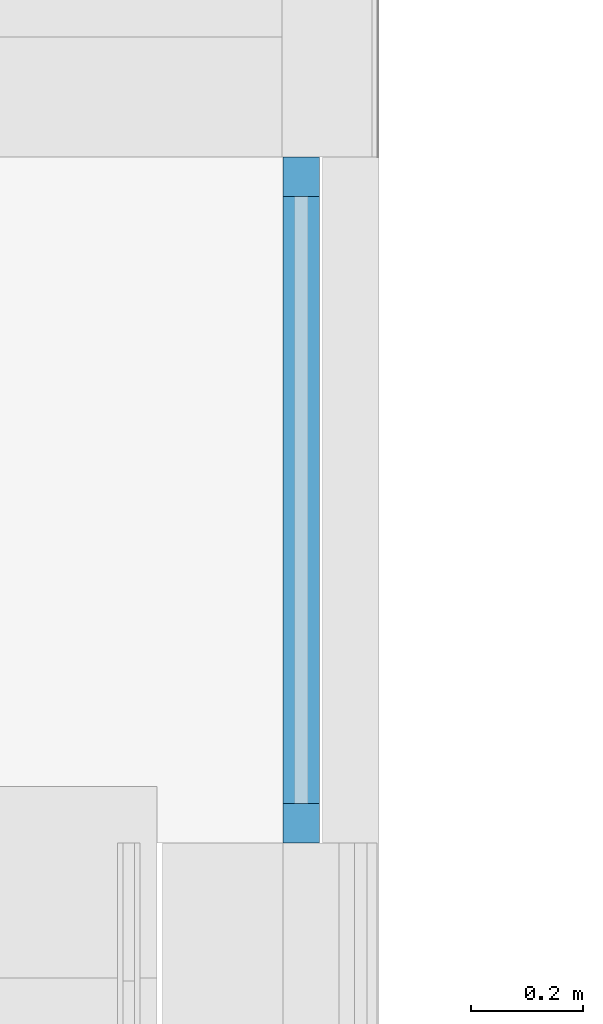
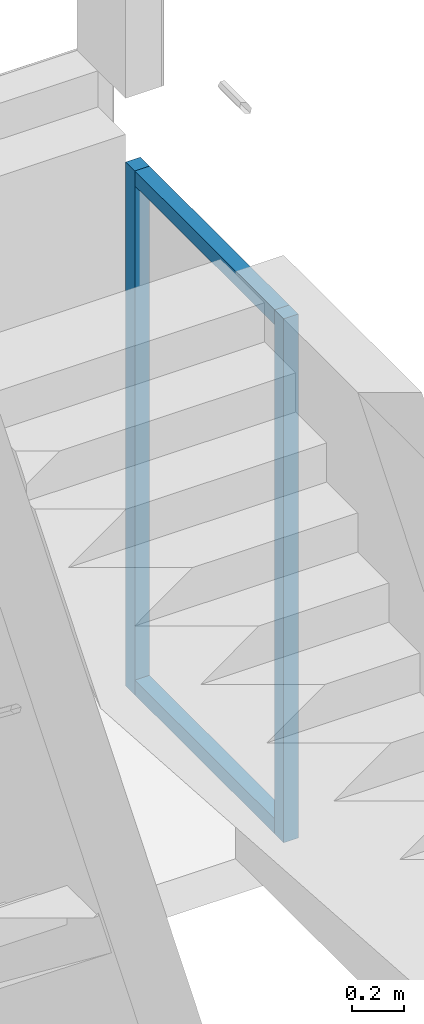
# One storey, part 5 of 99: 4 members, 1 element without a shape of its own.
"""IFC2X3 building model written with IfcOpenShell, lengths in millimetres."""

from ifc_helpers import new_model, entity, si_unit, converted_unit, derived_unit, money_unit, direction, frame, origin_with_axes, place, context, subcontext, project, spatial, faceted_brep, source, transform, mapped, material, type_object, type_shapes, element, aggregate, save


model = new_model("IFC2X3")

# Units and contexts
model_context = context("Model", 3, precision=0.01, world=origin_with_axes(), true_north=direction((0.0, 1.0)))
body_context = subcontext(model_context, "Body", "Model", "MODEL_VIEW")
ifc_project = project(units=[si_unit("LENGTHUNIT", "METRE", prefix="MILLI"), si_unit("AREAUNIT", "SQUARE_METRE"), si_unit("VOLUMEUNIT", "CUBIC_METRE"), converted_unit("PLANEANGLEUNIT", "DEGREE", entity("IfcPlaneAngleMeasure", 0.0174532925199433), si_unit("PLANEANGLEUNIT", "RADIAN"), dimensions=[0, 0, 0, 0, 0, 0, 0]), money_unit("EUR"), converted_unit("TIMEUNIT", "Year", entity("IfcTimeMeasure", 31557600.0), si_unit("TIMEUNIT", "SECOND"), dimensions=[0, 0, 1, 0, 0, 0, 0]), si_unit("MASSUNIT", "GRAM", prefix="KILO"), si_unit("THERMODYNAMICTEMPERATUREUNIT", "DEGREE_CELSIUS"), si_unit("LUMINOUSINTENSITYUNIT", "LUMEN"), si_unit("ENERGYUNIT", "JOULE", prefix="MEGA"), derived_unit("THERMALCONDUCTANCEUNIT", [(si_unit("POWERUNIT", "WATT"), 1), (si_unit("LENGTHUNIT", "METRE"), -1), (si_unit("THERMODYNAMICTEMPERATUREUNIT", "KELVIN"), -1)]), derived_unit("SPECIFICHEATCAPACITYUNIT", [(si_unit("ENERGYUNIT", "JOULE"), 1), (si_unit("MASSUNIT", "GRAM", prefix="KILO"), -1), (si_unit("THERMODYNAMICTEMPERATUREUNIT", "KELVIN"), -1)]), derived_unit("MASSDENSITYUNIT", [(si_unit("MASSUNIT", "GRAM", prefix="KILO"), 1), (si_unit("VOLUMEUNIT", "CUBIC_METRE"), -1)])], contexts=[model_context])

# Site, building, storey
site_placement = place(None, origin_with_axes())
site = spatial("IfcSite", under=ifc_project, at=site_placement, Name="Site", CompositionType="ELEMENT")
building_placement = place(site_placement, origin_with_axes())
building = spatial("IfcBuilding", under=site, at=building_placement, Name="Naam gebouw", CompositionType="ELEMENT")
storey_placement = place(building_placement, frame((0.0, 0.0, 7650.0), z_axis=(0.0, 0.0, 1.0), x_axis=(1.0, 0.0, 0.0)))
storey = spatial("IfcBuildingStorey", under=building, at=storey_placement, Name="2e verdieping N", CompositionType="ELEMENT", Elevation=7650.0)

# Curtain wall, members
curtain_wall_type = type_object("IfcCurtainWallType", Name="Curtain Wall:21_CW_alu kozijn 070x065", PredefinedType="NOTDEFINED")
curtain_wall_placement = place(storey_placement, frame((0.0, 0.0, -7650.0), z_axis=(0.0, 0.0, 1.0), x_axis=(1.0, 0.0, 0.0)))
curtain_wall = element("IfcCurtainWall", 1, at=curtain_wall_placement, inside=storey, type_object=curtain_wall_type, Name="Curtain Wall:21_CW_alu kozijn 070x065", ObjectType="Curtain Wall:21_CW_alu kozijn 070x065")
ifc_material = material(Name="RAL 7024 - Grafietgrijs")
member_type_1 = type_object("IfcMemberType", Name="Rectangular Mullion:31_alu_070x065 RAL 7024", PredefinedType="MULLION")
shared_shape_1 = source(origin_with_axes(), body_context, "Body", "Brep", [
    faceted_brep([(32.49999999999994, 1080.0, 0.0), (32.49999999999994, 1080.0, 70.0), (32.50000000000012, 0.0, 70.0), (32.50000000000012, 0.0, 0.0), (-32.50000000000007, 1080.0, 0.0), (-32.50000000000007, 1080.0, 70.0), (-32.4999999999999, 0.0, 70.0), (-32.4999999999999, 0.0, 0.0)], [[[0, 1, 2, 3]], [[0, 4, 5, 1]], [[1, 5, 6, 2]], [[3, 2, 6, 7]], [[4, 0, 3, 7]], [[5, 4, 7, 6]]]),
])
type_shapes(member_type_1, [shared_shape_1])
member_1_placement = place(curtain_wall_placement, frame((36613.5000000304, 38895.91242634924, 5920.000000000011), z_axis=(0.0, 0.0, 1.0), x_axis=(-1.0, 0.0, 0.0)))
member_1 = element("IfcMember", 2, at=member_1_placement, type_object=member_type_1, material=ifc_material, Name="Rectangular Mullion:31_alu_070x065 RAL 7024", ObjectType="MULLION", context=body_context, shape_type="MappedRepresentation", body=[
    mapped(shared_shape_1, transform((0.0, 0.0, 0.0))),
])
member_type_2 = type_object("IfcMemberType", Name="Rectangular Mullion:31_alu_070x065 RAL 7024", PredefinedType="MULLION")
shared_shape_2 = source(origin_with_axes(), body_context, "Body", "Brep", [
    faceted_brep([(0.0, -32.5, 2470.0), (-70.0, -32.50000000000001, 2470.0), (-70.0, -32.50000000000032, 0.0), (0.0, -32.50000000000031, 0.0), (0.0, 32.50000000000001, 2470.0), (-70.0, 32.5, 2470.0), (-70.0, 32.49999999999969, 0.0), (0.0, 32.49999999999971, 0.0)], [[[0, 1, 2, 3]], [[0, 4, 5, 1]], [[1, 5, 6, 2]], [[3, 2, 6, 7]], [[4, 0, 3, 7]], [[5, 4, 7, 6]]]),
])
type_shapes(member_type_2, [shared_shape_2])
member_2_placement = place(curtain_wall_placement, frame((36613.5000000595, 37745.91242626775, 5920.000000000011), z_axis=(0.0, 0.0, 1.0), x_axis=(0.0, -1.0, 0.0)))
member_2 = element("IfcMember", 3, at=member_2_placement, type_object=member_type_2, material=ifc_material, Name="Rectangular Mullion:31_alu_070x065 RAL 7024", ObjectType="MULLION", context=body_context, shape_type="MappedRepresentation", body=[
    mapped(shared_shape_2, transform((0.0, 0.0, 0.0))),
])
member_type_3 = type_object("IfcMemberType", Name="Rectangular Mullion:31_alu_070x065 RAL 7024", PredefinedType="MULLION")
shared_shape_3 = source(origin_with_axes(), body_context, "Body", "Brep", [
    faceted_brep([(0.0, 32.5, -2470.0), (-70.0, 32.50000000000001, -2470.0), (-70.0, 32.50000000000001, 0.0), (0.0, 32.5, 0.0), (0.0, -32.50000000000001, -2470.0), (-70.0, -32.5, -2470.0), (-70.0, -32.5, 0.0), (0.0, -32.50000000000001, 0.0)], [[[0, 1, 2, 3]], [[0, 4, 5, 1]], [[1, 5, 6, 2]], [[3, 2, 6, 7]], [[4, 0, 3, 7]], [[5, 4, 7, 6]]]),
])
type_shapes(member_type_3, [shared_shape_3])
member_3_placement = place(curtain_wall_placement, frame((36613.5000000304, 38965.91242629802, 8390.00000000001), z_axis=(0.0, 0.0, 1.0), x_axis=(0.0, 1.0, 0.0)))
member_3 = element("IfcMember", 4, at=member_3_placement, type_object=member_type_3, material=ifc_material, Name="Rectangular Mullion:31_alu_070x065 RAL 7024", ObjectType="MULLION", context=body_context, shape_type="MappedRepresentation", body=[
    mapped(shared_shape_3, transform((0.0, 0.0, 0.0))),
])
member_type_4 = type_object("IfcMemberType", Name="Rectangular Mullion:31_alu_070x065 RAL 7024", PredefinedType="MULLION")
shared_shape_4 = source(origin_with_axes(), body_context, "Body", "Brep", [
    faceted_brep([(32.50000000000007, -1080.0, 0.0), (32.50000000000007, -1080.0, -70.0), (32.4999999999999, 0.0, -70.0), (32.4999999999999, 0.0, 0.0), (-32.49999999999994, -1080.0, 0.0), (-32.49999999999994, -1080.0, -70.0), (-32.50000000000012, 0.0, -70.0), (-32.50000000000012, 0.0, 0.0)], [[[0, 1, 2, 3]], [[0, 4, 5, 1]], [[1, 5, 6, 2]], [[3, 2, 6, 7]], [[4, 0, 3, 7]], [[5, 4, 7, 6]]]),
])
type_shapes(member_type_4, [shared_shape_4])
member_4_placement = place(curtain_wall_placement, frame((36613.5000000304, 37815.91242633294, 8390.00000000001), z_axis=(0.0, 0.0, 1.0), x_axis=(-1.0, 0.0, 0.0)))
member_4 = element("IfcMember", 5, at=member_4_placement, type_object=member_type_4, material=ifc_material, Name="Rectangular Mullion:31_alu_070x065 RAL 7024", ObjectType="MULLION", context=body_context, shape_type="MappedRepresentation", body=[
    mapped(shared_shape_4, transform((0.0, 0.0, 0.0))),
])
aggregate(curtain_wall, [member_1, member_3, member_2, member_4])

save(model, "model.ifc")
